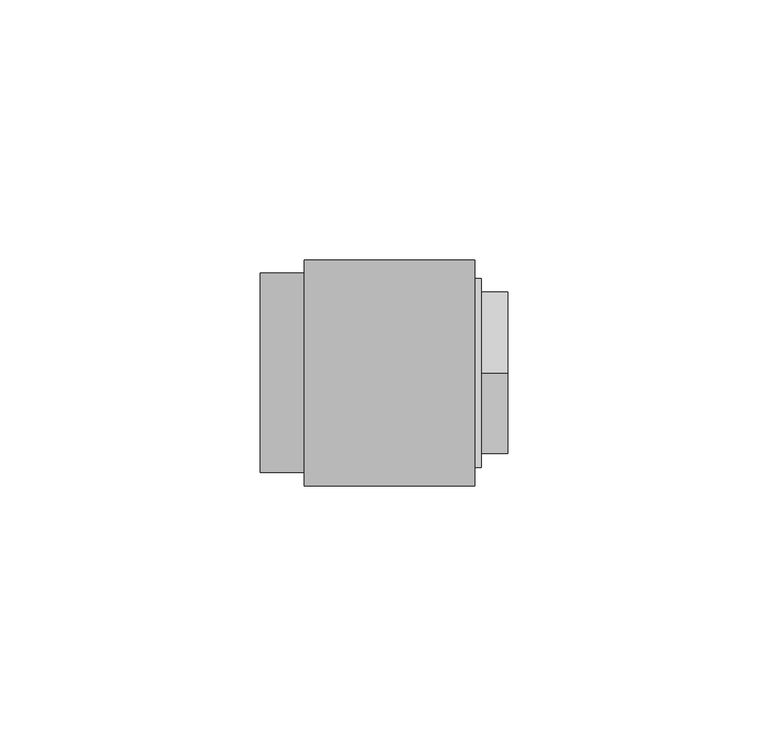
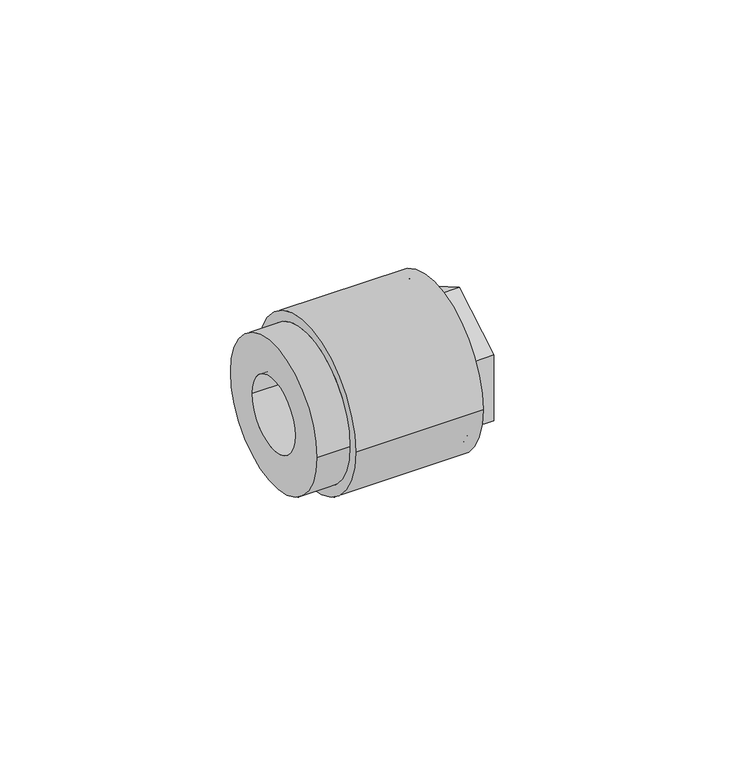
"""IFC4 building model written with IfcOpenShell, lengths in millimetres: pipe fitting geometry, Aquatherm - Fusion Outlet Transition Female : POTABLE BRASS - HEX."""

from ifc_helpers import new_model, si_unit, frame, origin, place, context, project, spatial, polyline, circle_curve, source, transform, mapped, element, save
from ifc_brep_helpers import plane_surface, cylinder_surface, revolved_surface, advanced_brep


def pipe_fitting_eec5c265(model_context):
    return source(origin(), model_context, "Body", "AdvancedBrep", [
        advanced_brep(
        [(25.62225, 12.7, 0.0), (25.62225, -12.7, 0.0), (36.5363125, -12.7, 0.0), (36.5363125, 12.7, 0.0), (25.62225, 13.49375, 0.0), (25.62225, -13.49375, 0.0), (22.44725, 13.49375, 0.0), (22.44725, -13.49375, 0.0), (22.44725, 9.525, 0.0), (22.44725, -9.525, 0.0), (19.27225, 9.525, 0.0), (19.27225, -9.525, 0.0), (19.27225, 19.177, 0.0), (19.27225, -19.177, 0.0), (32.766, 19.177, 0.0), (32.766, -19.177, 0.0), (39.116, 13.49375, 0.0), (39.116, -13.49375, 0.0), (39.116, -15.494, 0.0), (39.116, -15.494, -8.9454651), (39.116, 0.0, -17.8909301), (39.116, 15.494, -8.9454651), (39.116, 15.494, 0.0), (39.116, 15.494, 8.9454651), (39.116, 0.0, 17.8909301), (39.116, -15.494, 8.9454651), (32.766, 18.161, 0.0), (32.766, -18.161, 0.0), (33.956625, 18.161, 0.0), (33.956625, -18.161, 0.0), (33.956625, 0.0, -17.8909301), (33.956625, -15.494, -8.9454651), (33.956625, -15.494, 8.9454651), (33.956625, 0.0, 17.8909301), (33.956625, 15.494, 8.9454651), (33.956625, 15.494, -8.9454651)],
        [
            (0, 1, circle_curve(frame((25.62225, 0.0, 0.0), z_axis=(-1.0, 0.0, 0.0), x_axis=(0.0, -1.0, 0.0)), 12.7)),
            (1, 2),
            (2, 3, circle_curve(frame((36.5363125, 0.0, 0.0), z_axis=(1.0, 0.0, 0.0), x_axis=(0.0, -1.0, 0.0)), 12.7)),
            (3, 0),
            (1, 0, circle_curve(frame((25.62225, 0.0, 0.0), z_axis=(-1.0, 0.0, 0.0), x_axis=(0.0, -1.0, 0.0)), 12.7)),
            (3, 2, circle_curve(frame((36.5363125, 0.0, 0.0), z_axis=(1.0, 0.0, 0.0), x_axis=(0.0, -1.0, 0.0)), 12.7)),
            (0, 4),
            (4, 5, circle_curve(frame((25.62225, 0.0, 0.0), z_axis=(-1.0, 0.0, 0.0), x_axis=(0.0, -1.0, 0.0)), 13.49375)),
            (5, 1),
            (5, 4, circle_curve(frame((25.62225, 0.0, 0.0), z_axis=(-1.0, 0.0, 0.0), x_axis=(0.0, -1.0, 0.0)), 13.49375)),
            (4, 6),
            (6, 7, circle_curve(frame((22.44725, 0.0, 0.0), z_axis=(-1.0, 0.0, 0.0), x_axis=(0.0, -1.0, 0.0)), 13.49375)),
            (7, 5),
            (7, 6, circle_curve(frame((22.44725, 0.0, 0.0), z_axis=(-1.0, 0.0, 0.0), x_axis=(0.0, -1.0, 0.0)), 13.49375)),
            (6, 8),
            (8, 9, circle_curve(frame((22.44725, 0.0, 0.0), z_axis=(-1.0, 0.0, 0.0), x_axis=(0.0, -1.0, 0.0)), 9.525)),
            (9, 7),
            (9, 8, circle_curve(frame((22.44725, 0.0, 0.0), z_axis=(-1.0, 0.0, 0.0), x_axis=(0.0, -1.0, 0.0)), 9.525)),
            (8, 10),
            (10, 11, circle_curve(frame((19.27225, 0.0, 0.0), z_axis=(-1.0, 0.0, 0.0), x_axis=(0.0, -1.0, 0.0)), 9.525)),
            (11, 9),
            (11, 10, circle_curve(frame((19.27225, 0.0, 0.0), z_axis=(-1.0, 0.0, 0.0), x_axis=(0.0, -1.0, 0.0)), 9.525)),
            (10, 12),
            (12, 13, circle_curve(frame((19.27225, 0.0, 0.0), z_axis=(-1.0, 0.0, 0.0), x_axis=(0.0, -1.0, 0.0)), 19.177)),
            (13, 11),
            (13, 12, circle_curve(frame((19.27225, 0.0, 0.0), z_axis=(-1.0, 0.0, 0.0), x_axis=(0.0, -1.0, 0.0)), 19.177)),
            (12, 14),
            (14, 15, circle_curve(frame((32.766, 0.0, 0.0), z_axis=(-1.0, 0.0, 0.0), x_axis=(0.0, -1.0, 0.0)), 19.177)),
            (15, 13),
            (15, 14, circle_curve(frame((32.766, 0.0, 0.0), z_axis=(-1.0, 0.0, 0.0), x_axis=(0.0, -1.0, 0.0)), 19.177)),
            (16, 17, circle_curve(frame((39.116, 0.0, 0.0), z_axis=(-1.0, 0.0, 0.0), x_axis=(0.0, -1.0, 0.0)), 13.49375)),
            (17, 18),
            (18, 19),
            (19, 20),
            (20, 21),
            (21, 22),
            (22, 16),
            (17, 16, circle_curve(frame((39.116, 0.0, 0.0), z_axis=(-1.0, 0.0, 0.0), x_axis=(0.0, -1.0, 0.0)), 13.49375)),
            (22, 23),
            (23, 24),
            (24, 25),
            (25, 18),
            (2, 17),
            (16, 3),
            (14, 26),
            (26, 27, circle_curve(frame((32.766, 0.0, 0.0), z_axis=(-1.0, 0.0, 0.0), x_axis=(0.0, -1.0, 0.0)), 18.161)),
            (27, 15),
            (27, 26, circle_curve(frame((32.766, 0.0, 0.0), z_axis=(-1.0, 0.0, 0.0), x_axis=(0.0, -1.0, 0.0)), 18.161)),
            (26, 28),
            (28, 29, circle_curve(frame((33.956625, 0.0, 0.0), z_axis=(-1.0, 0.0, 0.0), x_axis=(0.0, -1.0, 0.0)), 18.161)),
            (29, 27),
            (29, 28, circle_curve(frame((33.956625, 0.0, 0.0), z_axis=(-1.0, 0.0, 0.0), x_axis=(0.0, -1.0, 0.0)), 18.161)),
            (30, 31),
            (31, 32),
            (32, 33),
            (33, 34),
            (34, 35),
            (35, 30),
            (35, 21),
            (20, 30),
            (34, 23),
            (33, 24),
            (32, 25),
            (31, 19),
        ],
        [
            revolved_surface(polyline([(36.5363125, -12.7, 0.0), (25.62225, -12.7, 0.0)]), (40.9492251, 0.0, 0.0), (1.0, 0.0, 0.0)),
            plane_surface(frame((25.62225, 0.0, 0.0), z_axis=(-1.0, 0.0, 0.0), x_axis=(0.0, -1.0, 0.0))),
            revolved_surface(polyline([(25.62225, -13.49375, 0.0), (22.44725, -13.49375, 0.0)]), (40.9492251, 0.0, 0.0), (1.0, 0.0, 0.0)),
            plane_surface(frame((22.44725, 0.0, 0.0), z_axis=(1.0, 0.0, 0.0), x_axis=(0.0, -1.0, 0.0))),
            revolved_surface(polyline([(22.44725, -9.525, 0.0), (19.27225, -9.525, 0.0)]), (40.9492251, 0.0, 0.0), (1.0, 0.0, 0.0)),
            plane_surface(frame((19.27225, 0.0, 0.0), z_axis=(-1.0, 0.0, 0.0), x_axis=(0.0, -1.0, 0.0))),
            cylinder_surface(frame((40.9492251, 0.0, 0.0), z_axis=(1.0, 0.0, 0.0), x_axis=(0.0, -1.0, 0.0)), 19.177),
            plane_surface(frame((39.116, 0.0, 0.0), z_axis=(1.0, 0.0, 0.0), x_axis=(0.0, -1.0, 0.0))),
            revolved_surface(polyline([(39.116, -13.49375, 0.0), (36.5363125, -12.7, 0.0)]), (40.9492251, 0.0, 0.0), (1.0, 0.0, 0.0)),
            plane_surface(frame((32.766, 0.0, 0.0), z_axis=(1.0, 0.0, 0.0), x_axis=(0.0, -1.0, 0.0))),
            cylinder_surface(frame((40.9492251, 0.0, 0.0), z_axis=(1.0, 0.0, 0.0), x_axis=(0.0, -1.0, 0.0)), 18.161),
            plane_surface(frame((33.956625, 15.494, -8.9454651), z_axis=(1.0000000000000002, 0.0, 0.0), x_axis=(0.0, 0.8660254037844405, 0.49999999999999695))),
            plane_surface(frame((33.956625, 0.0, -17.8909301), z_axis=(0.0, 0.49999999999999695, -0.8660254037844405), x_axis=(1.0, 0.0, 0.0))),
            plane_surface(frame((33.956625, 15.494, -8.9454651), z_axis=(0.0, 1.0, 0.0), x_axis=(1.0, 0.0, 0.0))),
            plane_surface(frame((33.956625, 15.494, 8.9454651), z_axis=(0.0, 0.5000000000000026, 0.8660254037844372), x_axis=(1.0, 0.0, 0.0))),
            plane_surface(frame((33.956625, 0.0, 17.8909301), z_axis=(0.0, -0.499999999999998, 0.8660254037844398), x_axis=(1.0, 0.0, 0.0))),
            plane_surface(frame((33.956625, -15.494, 8.9454651), z_axis=(0.0, -1.0, 0.0), x_axis=(1.0, 0.0, 0.0))),
            plane_surface(frame((33.956625, -15.494, -8.9454651), z_axis=(0.0, -0.5000000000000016, -0.8660254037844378), x_axis=(1.0, 0.0, 0.0))),
        ],
        [
            (0, [[1, 2, 3, 4]]),
            (0, [[-2, 5, -4, 6]]),
            (1, [[-1, 7, 8, 9]]),
            (1, [[-5, -9, 10, -7]]),
            (2, [[-8, 11, 12, 13]]),
            (2, [[-10, -13, 14, -11]]),
            (3, [[-12, 15, 16, 17]]),
            (3, [[-14, -17, 18, -15]]),
            (4, [[-16, 19, 20, 21]]),
            (4, [[-18, -21, 22, -19]]),
            (5, [[-20, 23, 24, 25]]),
            (5, [[-22, -25, 26, -23]]),
            (6, [[-24, 27, 28, 29]]),
            (6, [[-26, -29, 30, -27]]),
            (7, [[31, 32, 33, 34, 35, 36, 37]]),
            (7, [[38, -37, 39, 40, 41, 42, -32]]),
            (8, [[-3, 43, -31, 44]]),
            (8, [[-6, -44, -38, -43]]),
            (9, [[-28, 45, 46, 47]]),
            (9, [[-30, -47, 48, -45]]),
            (10, [[-46, 49, 50, 51]]),
            (10, [[-48, -51, 52, -49]]),
            (11, [[-50, -52], [53, 54, 55, 56, 57, 58]]),
            (12, [[-58, 59, -35, 60]]),
            (13, [[-57, 61, -39, -36, -59]]),
            (14, [[-56, 62, -40, -61]]),
            (15, [[-55, 63, -41, -62]]),
            (16, [[-54, 64, -33, -42, -63]]),
            (17, [[-53, -60, -34, -64]]),
        ],
    ),
        advanced_brep(
        [(-8.5124324, 19.177, 0.0), (-8.5124324, -19.177, 0.0), (-8.5124324, 9.525, 0.0), (-8.5124324, -9.525, 0.0), (19.27225, 19.177, 0.0), (19.27225, -19.177, 0.0), (19.27225, 9.525, 0.0), (19.27225, -9.525, 0.0), (0.0, 19.177, 0.0), (0.0, -19.177, 0.0), (32.766, 21.717, 0.0), (32.766, -21.717, 0.0), (32.766, 19.177, 0.0), (32.766, -19.177, 0.0), (0.0, 21.717, 0.0), (0.0, -21.717, 0.0)],
        [
            (0, 1, circle_curve(frame((-8.5124324, 0.0, 0.0), z_axis=(-1.0, 0.0, 0.0), x_axis=(0.0, -1.0, 0.0)), 19.177)),
            (1, 0, circle_curve(frame((-8.5124324, 0.0, 0.0), z_axis=(-1.0, 0.0, 0.0), x_axis=(0.0, -1.0, 0.0)), 19.177)),
            (2, 3, circle_curve(frame((-8.5124324, 0.0, 0.0), z_axis=(1.0, 0.0, 0.0), x_axis=(0.0, -1.0, 0.0)), 9.525)),
            (3, 2, circle_curve(frame((-8.5124324, 0.0, 0.0), z_axis=(1.0, 0.0, 0.0), x_axis=(0.0, -1.0, 0.0)), 9.525)),
            (4, 5, circle_curve(frame((19.27225, 0.0, 0.0), z_axis=(1.0, 0.0, 0.0), x_axis=(0.0, -1.0, 0.0)), 19.177)),
            (5, 4, circle_curve(frame((19.27225, 0.0, 0.0), z_axis=(1.0, 0.0, 0.0), x_axis=(0.0, -1.0, 0.0)), 19.177)),
            (6, 7, circle_curve(frame((19.27225, 0.0, 0.0), z_axis=(-1.0, 0.0, 0.0), x_axis=(0.0, -1.0, 0.0)), 9.525)),
            (7, 6, circle_curve(frame((19.27225, 0.0, 0.0), z_axis=(-1.0, 0.0, 0.0), x_axis=(0.0, -1.0, 0.0)), 9.525)),
            (2, 6),
            (7, 3),
            (0, 8),
            (8, 9, circle_curve(frame((0.0, 0.0, 0.0), z_axis=(-1.0, 0.0, 0.0), x_axis=(0.0, -1.0, 0.0)), 19.177)),
            (9, 1),
            (9, 8, circle_curve(frame((0.0, 0.0, 0.0), z_axis=(-1.0, 0.0, 0.0), x_axis=(0.0, -1.0, 0.0)), 19.177)),
            (10, 11, circle_curve(frame((32.766, 0.0, 0.0), z_axis=(1.0, 0.0, 0.0), x_axis=(0.0, -1.0, 0.0)), 21.717)),
            (11, 10, circle_curve(frame((32.766, 0.0, 0.0), z_axis=(1.0, 0.0, 0.0), x_axis=(0.0, -1.0, 0.0)), 21.717)),
            (12, 13, circle_curve(frame((32.766, 0.0, 0.0), z_axis=(-1.0, 0.0, 0.0), x_axis=(0.0, -1.0, 0.0)), 19.177)),
            (13, 12, circle_curve(frame((32.766, 0.0, 0.0), z_axis=(-1.0, 0.0, 0.0), x_axis=(0.0, -1.0, 0.0)), 19.177)),
            (14, 15, circle_curve(frame((0.0, 0.0, 0.0), z_axis=(-1.0, 0.0, 0.0), x_axis=(0.0, -1.0, 0.0)), 21.717)),
            (15, 14, circle_curve(frame((0.0, 0.0, 0.0), z_axis=(-1.0, 0.0, 0.0), x_axis=(0.0, -1.0, 0.0)), 21.717)),
            (13, 5),
            (4, 12),
            (11, 15),
            (14, 10),
        ],
        [
            plane_surface(frame((-8.5124324, -9.525, 0.0), z_axis=(-1.0, 0.0, 0.0), x_axis=(0.0, 0.0, -1.0))),
            plane_surface(frame((19.27225, -9.525, 0.0), z_axis=(1.0, 0.0, 0.0), x_axis=(0.0, 0.0, 1.0))),
            revolved_surface(polyline([(19.27225, -9.525, 0.0), (-8.512432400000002, -9.525, 0.0)]), (19.27225, 0.0, 0.0), (1.0, 0.0, 0.0)),
            cylinder_surface(frame((0.0, 0.0, 0.0), z_axis=(-1.0, 0.0, 0.0), x_axis=(0.0, -1.0, 0.0)), 19.177),
            plane_surface(frame((32.766, -19.177, 0.0), z_axis=(1.0, 0.0, 0.0), x_axis=(0.0, 0.0, 1.0))),
            plane_surface(frame((0.0, -19.177, 0.0), z_axis=(-1.0, 0.0, 0.0), x_axis=(0.0, 0.0, -1.0))),
            revolved_surface(polyline([(32.766, -19.177, 0.0), (19.27225, -19.177, 0.0)]), (32.766, 0.0, 0.0), (1.0, 0.0, 0.0)),
            cylinder_surface(frame((0.0, 0.0, 0.0), z_axis=(-1.0, 0.0, 0.0), x_axis=(0.0, -1.0, 0.0)), 21.717),
        ],
        [
            (0, [[1, 2], [3, 4]]),
            (1, [[5, 6], [7, 8]]),
            (2, [[-3, 9, -8, 10]]),
            (2, [[-4, -10, -7, -9]]),
            (3, [[-1, 11, 12, 13]]),
            (3, [[-2, -13, 14, -11]]),
            (4, [[15, 16], [17, 18]]),
            (5, [[19, 20], [-12, -14]]),
            (6, [[-18, 21, -5, 22]]),
            (6, [[-17, -22, -6, -21]]),
            (7, [[-16, 23, -19, 24]]),
            (7, [[-15, -24, -20, -23]]),
        ],
    ),
    ])


if __name__ == "__main__":
    model = new_model("IFC4")
    model_context = context("Model", 3, world=origin())
    ifc_project = project(units=[si_unit("LENGTHUNIT", "METRE", prefix="MILLI")], contexts=[model_context])
    site = spatial("IfcSite", under=ifc_project)
    building = spatial("IfcBuilding", under=site)
    placement = place(None, origin())
    pipe_fitting_shape = pipe_fitting_eec5c265(model_context)
    element("IfcPipeFitting", 1, ObjectType="Aquatherm - Fusion Outlet Transition Female : POTABLE BRASS - HEX", at=placement, inside=building, context=model_context, shape_type="MappedRepresentation", body=[
        mapped(pipe_fitting_shape, transform((0.0, 0.0, 0.0), x_axis=(1.0, 0.0, 0.0), y_axis=(0.0, 1.0, 0.0), z_axis=(0.0, 0.0, 1.0))),
    ])
    save(model, "model.ifc")
